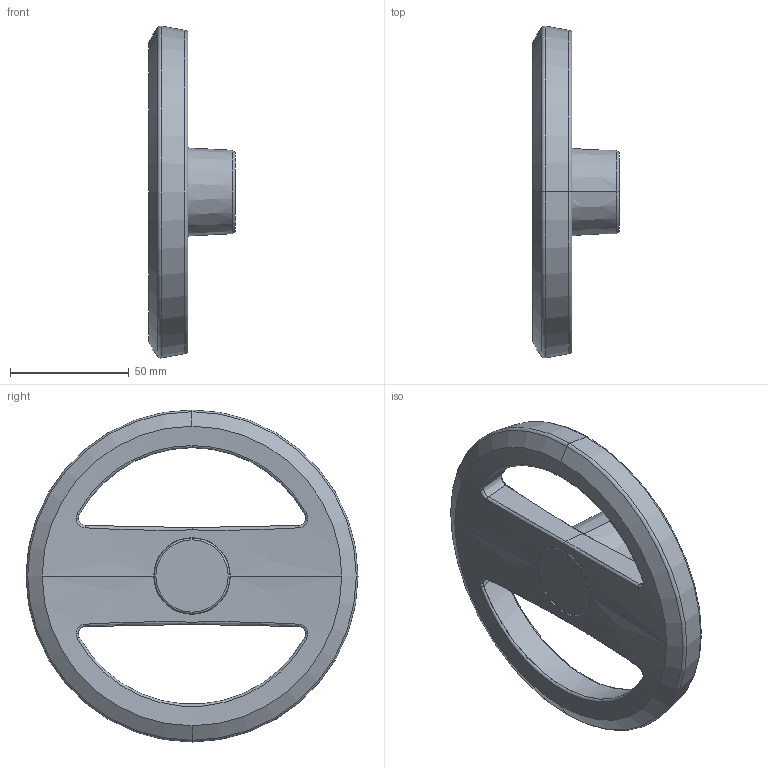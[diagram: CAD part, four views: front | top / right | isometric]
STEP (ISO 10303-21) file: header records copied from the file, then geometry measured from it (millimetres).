
FILE_DESCRIPTION (( 'STEP AP214' ), '1' );
FILE_NAME ('924-140-K16-A-SR.step', '2020-05-15T11:32:07', ( '' ), ( '' ), 'SwSTEP 2.0', 'SolidWorks 2019', '' );
FILE_SCHEMA (( 'AUTOMOTIVE_DESIGN' ));
Length unit declared in the file: millimetre
Products named in the file (1): 924-140-K16-A-SR
Bounding box: 36.5 x 139.69 x 139.69 mm (x, y, z)
Volume: 148358.7 mm3; surface area: 37162.7 mm2
Topology: 1 solids, 1 shells, 88 faces, 204 edges, 123 vertices
Faces by surface type: bspline 40, torus 15, cone 12, plane 12, cylinder 9
Entity records: 3911 total; most frequent: CARTESIAN_POINT 2034, ORIENTED_EDGE 408, DIRECTION 346, EDGE_CURVE 204, AXIS2_PLACEMENT_3D 159, VERTEX_POINT 123, CIRCLE 110, EDGE_LOOP 97
